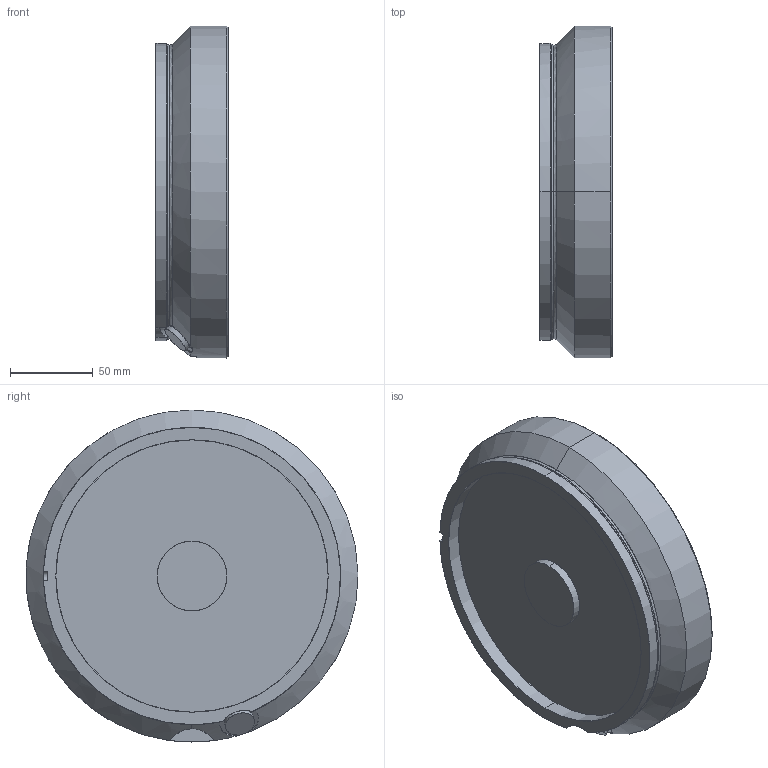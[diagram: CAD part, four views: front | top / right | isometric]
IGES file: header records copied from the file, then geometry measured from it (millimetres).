
Start section: SolidWorks IGES file using analytic representation for surfaces
Global section: file name: C:\Data\SAP_DOC\IRB6740_lightweight\6750S\IRB 6750S ASM\IRB6750S-MH3_350kg-320_OC_02_SW_J\IRB6750S-MH3_350kg-320_OC_02_IGES_J\IRB6750S_350kg-320_OC_02_LINK06_CAD.igs; native system: SolidWorks 2024; preprocessor: SolidWorks 2024; author: SEJAOLS6; date: 260507.085332; units: millimetre
Bounding box: 43.5 x 200 x 200 mm (x, y, z)
Surface area: 123360.7 mm2 (no closed solid volume)
Topology: 0 solids, 0 shells, 270 faces, 4817 edges, 4793 vertices
Faces by surface type: revolution 205, bspline 65
